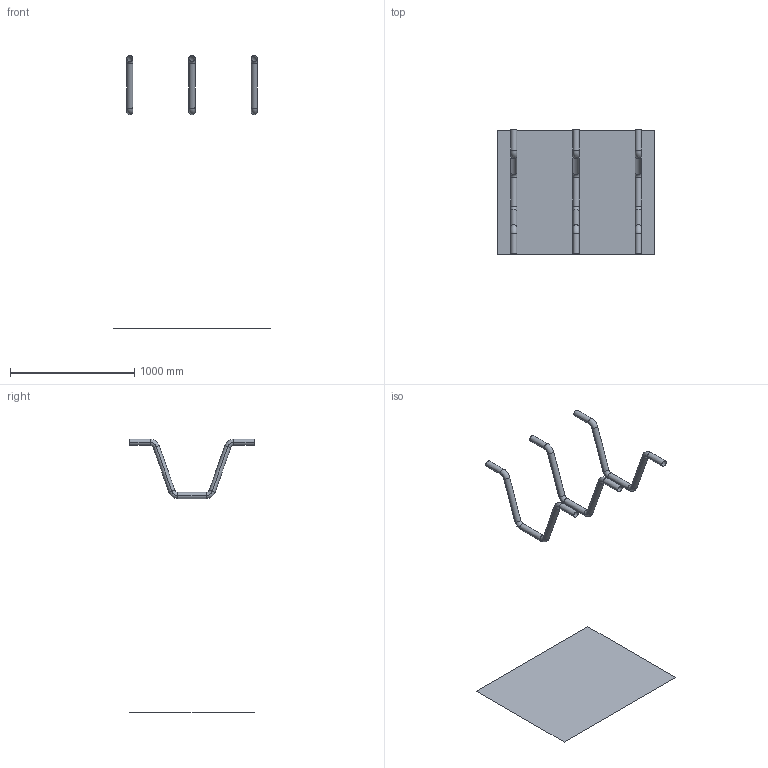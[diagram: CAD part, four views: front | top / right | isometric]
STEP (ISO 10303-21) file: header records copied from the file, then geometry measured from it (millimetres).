
FILE_DESCRIPTION(('CATIA V5 STEP Exchange'),'2;1');
FILE_NAME('C:\_Andres\UNIVERSIDAD\IQS\ASIGNATURAS\DAO\EXF\EXF-16172c\2inicio\Reyes_Carmenaty_Ej08_v27.stp','2017-03-05T21:54:56+00:00',('none'),('none'),'CATIA Version 5-6 Release 2014 SP1 HF18','CATIA V5 STEP AP203','none');
FILE_SCHEMA(('CONFIG_CONTROL_DESIGN'));
Length unit declared in the file: millimetre
Products named in the file (1): Reyes_Carmenaty_Ej08_v27
Bounding box: 1270 x 1000 x 2198 mm (x, y, z)
Surface area: 2009047.7 mm2 (no closed solid volume)
Topology: 0 solids, 4 shells, 55 faces, 118 edges, 64 vertices
Faces by surface type: cylinder 30, torus 24, plane 1
Entity records: 1283 total; most frequent: ORIENTED_EDGE 220, CARTESIAN_POINT 208, DIRECTION 168, EDGE_CURVE 118, AXIS2_PLACEMENT_3D 110, CIRCLE 84, VERTEX_POINT 64, ADVANCED_FACE 55
